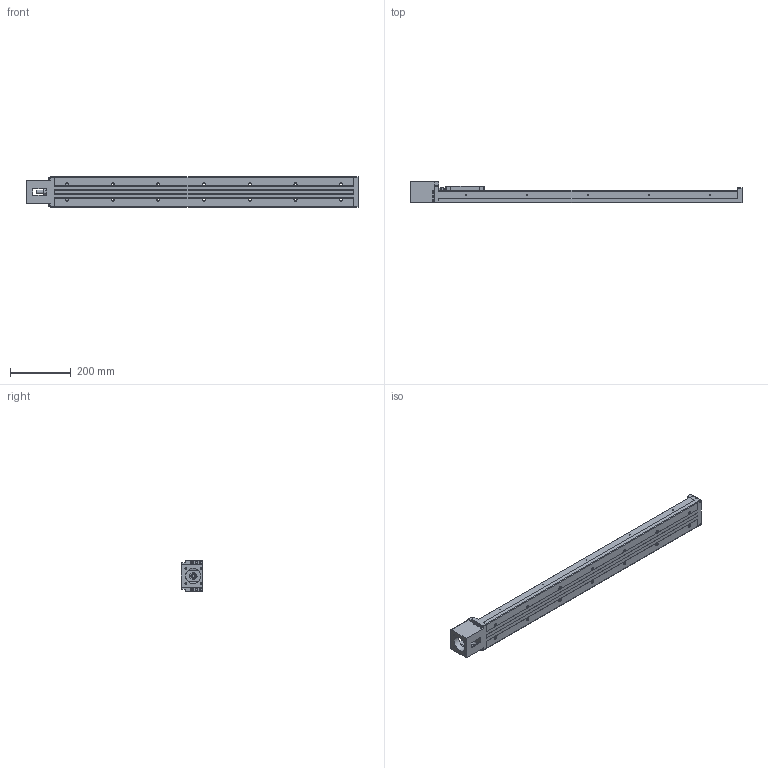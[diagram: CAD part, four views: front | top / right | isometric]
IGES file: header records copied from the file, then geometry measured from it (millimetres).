
Start section: Data from Parasolid IGES Translator 26.0.171, Copyright(c) 2006 Siemens PLM Software. All Rights Reserved.
Global section: file name: SKR5520A-0800-0-00A0 (400W00).igs; native system: By Siemens PLM Incorporated; preprocessor: XPlus GENERIC/IGES 26.0.171; author: Noname; organization: Noname; date: 20240513.084046; units: millimetre
Bounding box: 1089 x 72 x 100 mm (x, y, z)
Surface area: 514878.3 mm2 (no closed solid volume)
Topology: 0 solids, 0 shells, 627 faces, 3133 edges, 2878 vertices
Faces by surface type: extrusion 387, revolution 240
